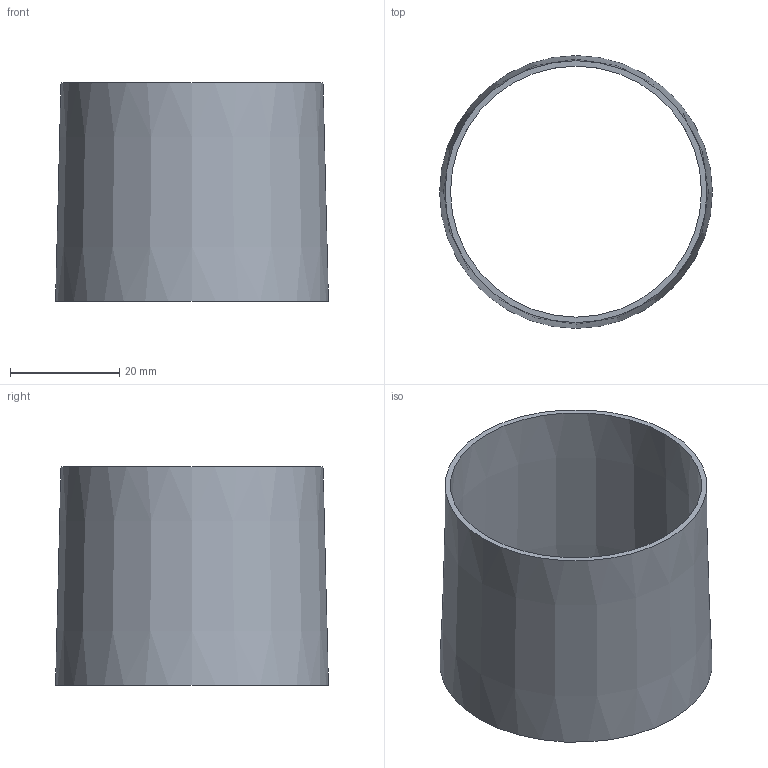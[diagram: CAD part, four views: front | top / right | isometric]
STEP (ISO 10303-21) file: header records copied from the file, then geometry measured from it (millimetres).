
FILE_DESCRIPTION( ( 'STEP AP214' ), '1' );
FILE_NAME( 'C:/Users/ilukic/Documents/ex/gebaudeentwasserung/pe/Geberit PE support ring/359455.stp', '2020-03-26T18:41:23', ( '' ), ( '' ), ' ', 'PARTsolutions', ' ' );
FILE_SCHEMA( ( 'AUTOMOTIVE_DESIGN { 1 0 10303 214 1 1 1 1 }' ) );
Length unit declared in the file: millimetre
Products named in the file (1): _359455
Bounding box: 50 x 50 x 40 mm (x, y, z)
Volume: 6033.9 mm3; surface area: 12369.5 mm2
Topology: 1 solids, 1 shells, 4 faces, 6 edges, 4 vertices
Faces by surface type: cone 2, plane 2
Entity records: 136 total; most frequent: DIRECTION 18, CARTESIAN_POINT 13, AXIS2_PLACEMENT_3D 9, EDGE_LOOP 8, ORIENTED_EDGE 8, STYLED_ITEM 4, PRESENTATION_STYLE_ASSIGNMENT 4, ADVANCED_FACE 4
